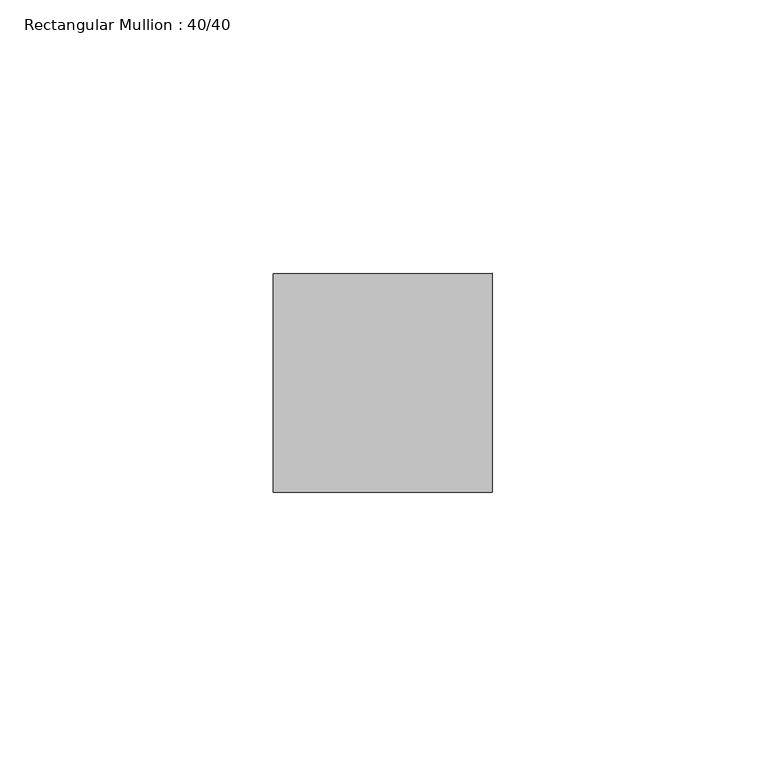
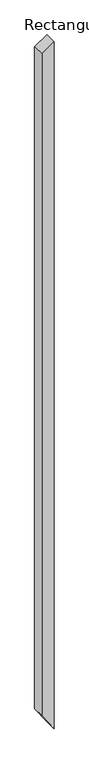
"""IFC4 building model written with IfcOpenShell, lengths in millimetres: member geometry, Rectangular Mullion : 40/40."""

from ifc_helpers import new_model, si_unit, frame, origin, place, context, project, spatial, polyline, outline, extrude, source, transform, mapped, element, save


def rectangular_mullion_40_40_e268152e(model_context):
    return source(origin(), model_context, "Body", "SweptSolid", [
        extrude(outline(polyline([(0.0, 0.0), (-27.0109548, -40.0), (-2291.3086099, -40.0), (-2350.5438355, 0.0), (0.0, 0.0)])), frame((0.0, -20.0, 0.0), z_axis=(0.0, 1.0, 0.0), x_axis=(0.0, 0.0, 1.0)), (0.0, 0.0, 1.0), 40.0),
    ])


if __name__ == "__main__":
    model = new_model("IFC4")
    model_context = context("Model", 3, world=origin())
    ifc_project = project(units=[si_unit("LENGTHUNIT", "METRE", prefix="MILLI")], contexts=[model_context])
    site = spatial("IfcSite", under=ifc_project)
    building = spatial("IfcBuilding", under=site)
    placement = place(None, origin())
    rectangular_mullion_40_40_shape = rectangular_mullion_40_40_e268152e(model_context)
    element("IfcMember", 1, ObjectType="Rectangular Mullion : 40/40", at=placement, inside=building, context=model_context, shape_type="MappedRepresentation", body=[
        mapped(rectangular_mullion_40_40_shape, transform((0.0, 0.0, 0.0), x_axis=(1.0, 0.0, 0.0), y_axis=(0.0, 1.0, 0.0), z_axis=(0.0, 0.0, 1.0))),
    ])
    save(model, "model.ifc")
